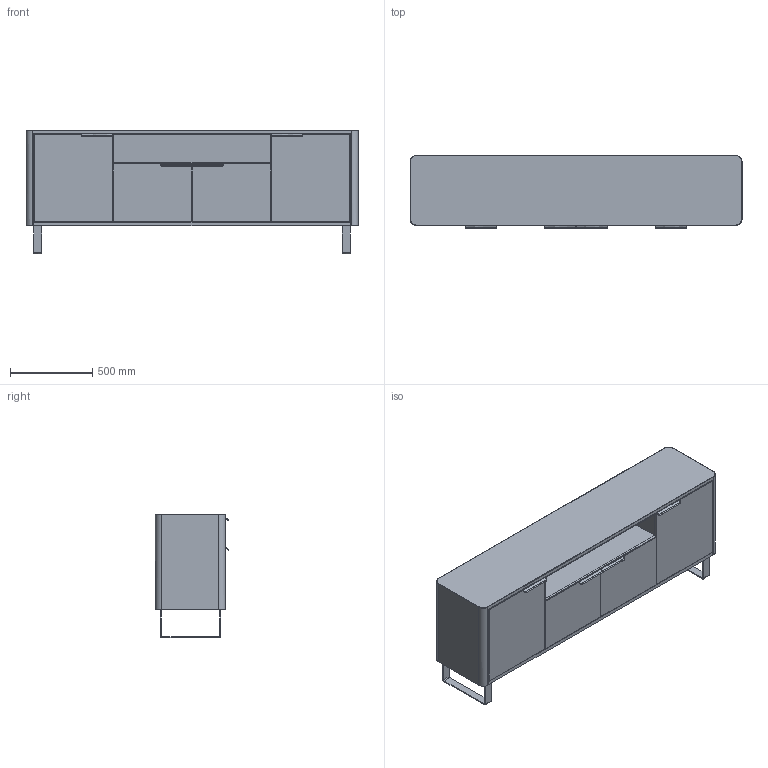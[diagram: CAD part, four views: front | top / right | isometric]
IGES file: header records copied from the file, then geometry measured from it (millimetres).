
Start section: Comment
Global section: file name: ZB-SB-2017-H3 - V01 - Kufen.igs; native system:  By UGS Corp.; preprocessor: XPlus GENERIC/IGES 3.0; author: Author; organization: Title; date: 20210906.144543; units: inch
Bounding box: 2017 x 445.33 x 752.5 mm (x, y, z)
Surface area: 6002215.9 mm2 (no closed solid volume)
Topology: 0 solids, 0 shells, 187 faces, 956 edges, 956 vertices
Faces by surface type: bspline 187
